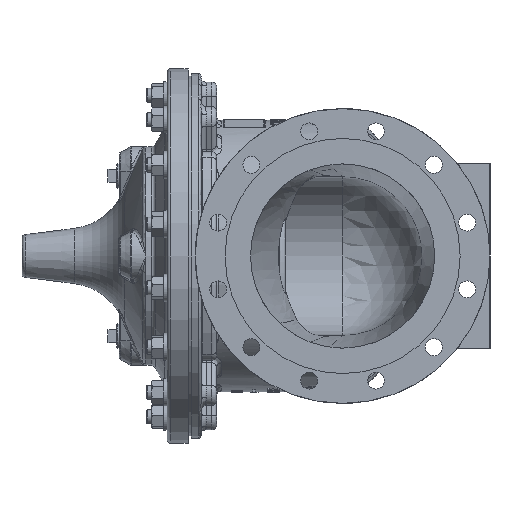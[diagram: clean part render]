
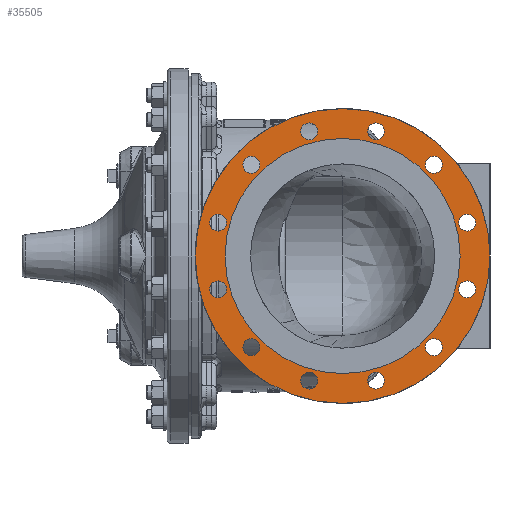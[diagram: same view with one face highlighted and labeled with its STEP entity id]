
A CAD part, left-side view. The second image highlights one B-rep face of the part: STEP entity #35505.
In plain terms, the highlighted planar face has unit normal (-1, 0, 0).
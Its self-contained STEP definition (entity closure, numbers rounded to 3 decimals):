
#3460=FACE_BOUND('',#8398,.T.);
#3461=FACE_BOUND('',#8399,.T.);
#3462=FACE_BOUND('',#8400,.T.);
#3463=FACE_BOUND('',#8401,.T.);
#3464=FACE_BOUND('',#8402,.T.);
#3465=FACE_BOUND('',#8403,.T.);
#3466=FACE_BOUND('',#8404,.T.);
#3467=FACE_BOUND('',#8405,.T.);
#3468=FACE_BOUND('',#8406,.T.);
#3469=FACE_BOUND('',#8407,.T.);
#3470=FACE_BOUND('',#8408,.T.);
#3471=FACE_BOUND('',#8409,.T.);
#3472=FACE_BOUND('',#8410,.T.);
#4059=PLANE('',#38775);
#6083=FACE_OUTER_BOUND('',#8397,.T.);
#8397=EDGE_LOOP('',(#31311));
#8398=EDGE_LOOP('',(#31312));
#8399=EDGE_LOOP('',(#31313));
#8400=EDGE_LOOP('',(#31314));
#8401=EDGE_LOOP('',(#31315));
#8402=EDGE_LOOP('',(#31316));
#8403=EDGE_LOOP('',(#31317));
#8404=EDGE_LOOP('',(#31318));
#8405=EDGE_LOOP('',(#31319));
#8406=EDGE_LOOP('',(#31320));
#8407=EDGE_LOOP('',(#31321));
#8408=EDGE_LOOP('',(#31322));
#8409=EDGE_LOOP('',(#31323));
#8410=EDGE_LOOP('',(#31324));
#12516=CIRCLE('',#37726,200.);
#12948=CIRCLE('',#38705,11.5);
#12963=CIRCLE('',#38736,11.5);
#12965=CIRCLE('',#38753,11.5);
#12966=CIRCLE('',#38755,11.5);
#12967=CIRCLE('',#38757,11.5);
#12968=CIRCLE('',#38759,11.5);
#12969=CIRCLE('',#38761,11.5);
#12970=CIRCLE('',#38763,11.5);
#12971=CIRCLE('',#38765,11.5);
#12972=CIRCLE('',#38767,11.5);
#12973=CIRCLE('',#38769,11.5);
#12974=CIRCLE('',#38771,11.5);
#12975=CIRCLE('',#38773,159.5);
#15161=VERTEX_POINT('',#76366);
#16374=VERTEX_POINT('',#145734);
#16396=VERTEX_POINT('',#146179);
#16400=VERTEX_POINT('',#146527);
#16401=VERTEX_POINT('',#146531);
#16402=VERTEX_POINT('',#146535);
#16403=VERTEX_POINT('',#146539);
#16404=VERTEX_POINT('',#146543);
#16405=VERTEX_POINT('',#146547);
#16406=VERTEX_POINT('',#146551);
#16407=VERTEX_POINT('',#146555);
#16408=VERTEX_POINT('',#146559);
#16409=VERTEX_POINT('',#146563);
#16410=VERTEX_POINT('',#146567);
#19412=EDGE_CURVE('',#15161,#15161,#12516,.T.);
#21461=EDGE_CURVE('',#16374,#16374,#12948,.T.);
#21506=EDGE_CURVE('',#16396,#16396,#12963,.T.);
#21529=EDGE_CURVE('',#16400,#16400,#12965,.T.);
#21531=EDGE_CURVE('',#16401,#16401,#12966,.T.);
#21533=EDGE_CURVE('',#16402,#16402,#12967,.T.);
#21535=EDGE_CURVE('',#16403,#16403,#12968,.T.);
#21537=EDGE_CURVE('',#16404,#16404,#12969,.T.);
#21539=EDGE_CURVE('',#16405,#16405,#12970,.T.);
#21541=EDGE_CURVE('',#16406,#16406,#12971,.T.);
#21543=EDGE_CURVE('',#16407,#16407,#12972,.T.);
#21545=EDGE_CURVE('',#16408,#16408,#12973,.T.);
#21547=EDGE_CURVE('',#16409,#16409,#12974,.T.);
#21549=EDGE_CURVE('',#16410,#16410,#12975,.T.);
#31311=ORIENTED_EDGE('',*,*,#19412,.F.);
#31312=ORIENTED_EDGE('',*,*,#21535,.T.);
#31313=ORIENTED_EDGE('',*,*,#21549,.F.);
#31314=ORIENTED_EDGE('',*,*,#21461,.T.);
#31315=ORIENTED_EDGE('',*,*,#21545,.T.);
#31316=ORIENTED_EDGE('',*,*,#21506,.T.);
#31317=ORIENTED_EDGE('',*,*,#21529,.T.);
#31318=ORIENTED_EDGE('',*,*,#21537,.T.);
#31319=ORIENTED_EDGE('',*,*,#21539,.T.);
#31320=ORIENTED_EDGE('',*,*,#21547,.T.);
#31321=ORIENTED_EDGE('',*,*,#21541,.T.);
#31322=ORIENTED_EDGE('',*,*,#21543,.T.);
#31323=ORIENTED_EDGE('',*,*,#21531,.T.);
#31324=ORIENTED_EDGE('',*,*,#21533,.T.);
#35505=ADVANCED_FACE('',(#6083,#3460,#3461,#3462,#3463,#3464,#3465,#3466,
#3467,#3468,#3469,#3470,#3471,#3472),#4059,.F.);
#37726=AXIS2_PLACEMENT_3D('',#76368,#43539,#43540);
#38705=AXIS2_PLACEMENT_3D('',#145735,#46243,#46244);
#38736=AXIS2_PLACEMENT_3D('',#146180,#46322,#46323);
#38753=AXIS2_PLACEMENT_3D('',#146528,#46373,#46374);
#38755=AXIS2_PLACEMENT_3D('',#146532,#46378,#46379);
#38757=AXIS2_PLACEMENT_3D('',#146536,#46383,#46384);
#38759=AXIS2_PLACEMENT_3D('',#146540,#46388,#46389);
#38761=AXIS2_PLACEMENT_3D('',#146544,#46393,#46394);
#38763=AXIS2_PLACEMENT_3D('',#146548,#46398,#46399);
#38765=AXIS2_PLACEMENT_3D('',#146552,#46403,#46404);
#38767=AXIS2_PLACEMENT_3D('',#146556,#46408,#46409);
#38769=AXIS2_PLACEMENT_3D('',#146560,#46413,#46414);
#38771=AXIS2_PLACEMENT_3D('',#146564,#46418,#46419);
#38773=AXIS2_PLACEMENT_3D('',#146568,#46423,#46424);
#38775=AXIS2_PLACEMENT_3D('',#146572,#46428,#46429);
#43539=DIRECTION('center_axis',(1.,0.,0.));
#43540=DIRECTION('ref_axis',(0.,1.,0.));
#46243=DIRECTION('center_axis',(1.,0.,0.));
#46244=DIRECTION('ref_axis',(0.,0.,1.));
#46322=DIRECTION('center_axis',(1.,0.,0.));
#46323=DIRECTION('ref_axis',(0.,0.,1.));
#46373=DIRECTION('center_axis',(1.,0.,0.));
#46374=DIRECTION('ref_axis',(0.,0.,1.));
#46378=DIRECTION('center_axis',(1.,0.,0.));
#46379=DIRECTION('ref_axis',(0.,0.,1.));
#46383=DIRECTION('center_axis',(1.,0.,0.));
#46384=DIRECTION('ref_axis',(0.,0.,1.));
#46388=DIRECTION('center_axis',(1.,0.,0.));
#46389=DIRECTION('ref_axis',(0.,0.,1.));
#46393=DIRECTION('center_axis',(1.,0.,0.));
#46394=DIRECTION('ref_axis',(0.,0.,1.));
#46398=DIRECTION('center_axis',(1.,0.,0.));
#46399=DIRECTION('ref_axis',(0.,0.,1.));
#46403=DIRECTION('center_axis',(1.,0.,0.));
#46404=DIRECTION('ref_axis',(0.,0.,1.));
#46408=DIRECTION('center_axis',(1.,0.,0.));
#46409=DIRECTION('ref_axis',(0.,0.,1.));
#46413=DIRECTION('center_axis',(1.,0.,0.));
#46414=DIRECTION('ref_axis',(0.,0.,1.));
#46418=DIRECTION('center_axis',(1.,0.,0.));
#46419=DIRECTION('ref_axis',(0.,0.,1.));
#46423=DIRECTION('center_axis',(-1.,0.,0.));
#46424=DIRECTION('ref_axis',(0.,0.,-1.));
#46428=DIRECTION('center_axis',(1.,0.,0.));
#46429=DIRECTION('ref_axis',(0.,0.,-1.));
#76366=CARTESIAN_POINT('',(-362.,-200.,0.));
#76368=CARTESIAN_POINT('Origin',(-362.,0.,0.));
#145734=CARTESIAN_POINT('',(-362.,123.744,112.244));
#145735=CARTESIAN_POINT('Origin',(-362.,123.744,123.744));
#146179=CARTESIAN_POINT('',(-362.,-123.744,-135.244));
#146180=CARTESIAN_POINT('Origin',(-362.,-123.744,-123.744));
#146527=CARTESIAN_POINT('',(-362.,169.037,33.793));
#146528=CARTESIAN_POINT('Origin',(-362.,169.037,45.293));
#146531=CARTESIAN_POINT('',(-362.,45.293,157.537));
#146532=CARTESIAN_POINT('Origin',(-362.,45.293,169.037));
#146535=CARTESIAN_POINT('',(-362.,-45.293,157.537));
#146536=CARTESIAN_POINT('Origin',(-362.,-45.293,169.037));
#146539=CARTESIAN_POINT('',(-362.,-123.744,112.244));
#146540=CARTESIAN_POINT('Origin',(-362.,-123.744,123.744));
#146543=CARTESIAN_POINT('',(-362.,-169.037,33.793));
#146544=CARTESIAN_POINT('Origin',(-362.,-169.037,45.293));
#146547=CARTESIAN_POINT('',(-362.,-169.037,-56.793));
#146548=CARTESIAN_POINT('Origin',(-362.,-169.037,-45.293));
#146551=CARTESIAN_POINT('',(-362.,-45.293,-180.537));
#146552=CARTESIAN_POINT('Origin',(-362.,-45.293,-169.037));
#146555=CARTESIAN_POINT('',(-362.,45.293,-180.537));
#146556=CARTESIAN_POINT('Origin',(-362.,45.293,-169.037));
#146559=CARTESIAN_POINT('',(-362.,123.744,-135.244));
#146560=CARTESIAN_POINT('Origin',(-362.,123.744,-123.744));
#146563=CARTESIAN_POINT('',(-362.,169.037,-56.793));
#146564=CARTESIAN_POINT('Origin',(-362.,169.037,-45.293));
#146567=CARTESIAN_POINT('',(-362.,0.,159.5));
#146568=CARTESIAN_POINT('Origin',(-362.,0.,0.));
#146572=CARTESIAN_POINT('Origin',(-362.,0.,0.));
